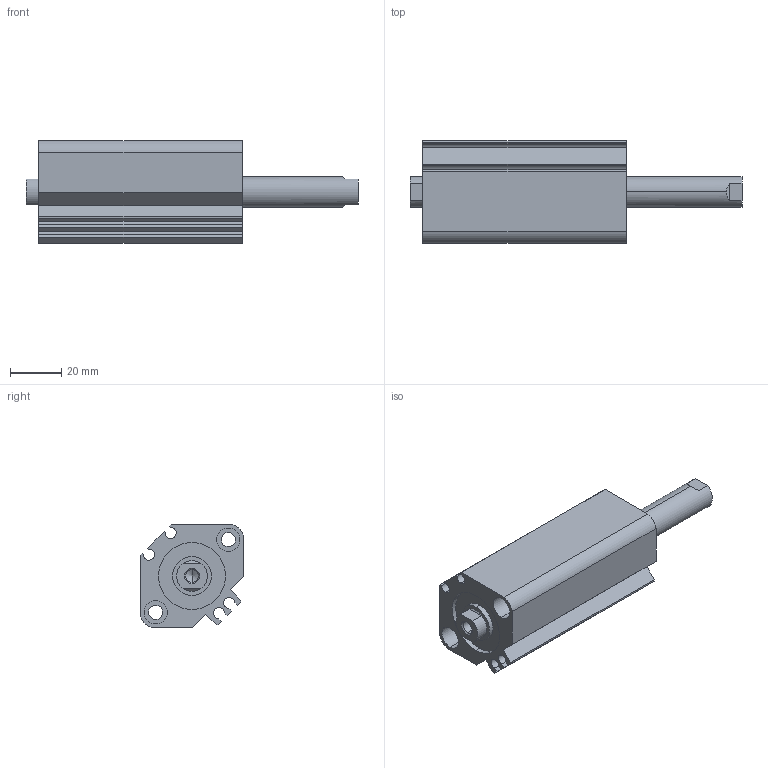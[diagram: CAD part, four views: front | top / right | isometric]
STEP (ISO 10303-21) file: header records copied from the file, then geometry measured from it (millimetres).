
FILE_DESCRIPTION (( 'STEP AP203' ), '1' );
FILE_NAME ('CCMB25-40F-P.STEP', '2020-08-05T11:10:46', ( '' ), ( '' ), 'SwSTEP 2.0', 'SolidWorks 2019', '' );
FILE_SCHEMA (( 'CONFIG_CONTROL_DESIGN' ));
Length unit declared in the file: millimetre
Products named in the file (1): CCMB25-40F-P
Bounding box: 129 x 40 x 40 mm (x, y, z)
Volume: 89475.1 mm3; surface area: 33743.8 mm2
Topology: 2 solids, 2 shells, 114 faces, 276 edges, 178 vertices
Faces by surface type: cylinder 52, plane 50, cone 12
Entity records: 3415 total; most frequent: DIRECTION 606, CARTESIAN_POINT 589, ORIENTED_EDGE 544, EDGE_CURVE 272, AXIS2_PLACEMENT_3D 227, VERTEX_POINT 178, LINE 152, VECTOR 152
